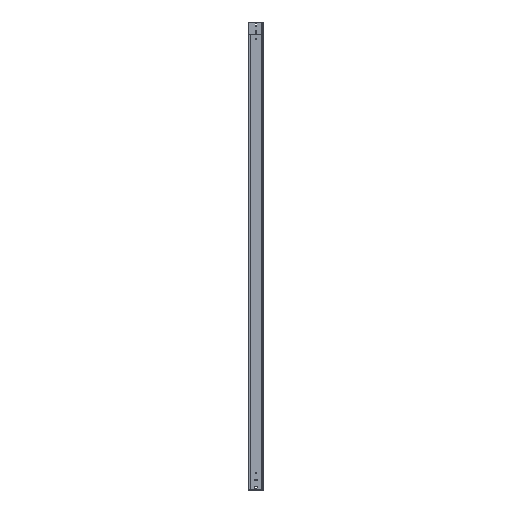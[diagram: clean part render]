
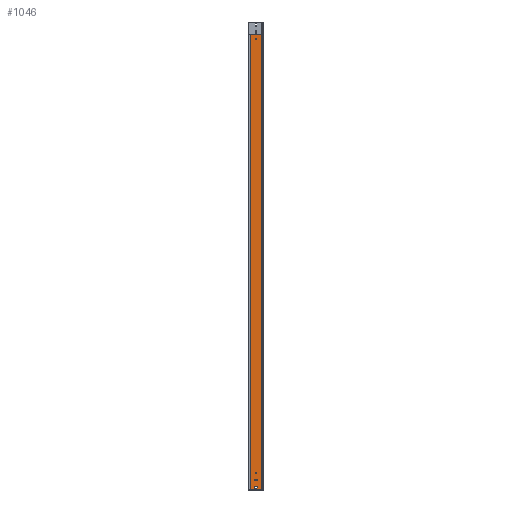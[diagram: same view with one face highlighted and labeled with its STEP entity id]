
A CAD part, left-side view. The second image highlights one B-rep face of the part: STEP entity #1046.
In plain terms, the highlighted planar face has unit normal (-1, 0, 0).
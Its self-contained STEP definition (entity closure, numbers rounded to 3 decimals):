
#2 = ORIENTED_EDGE ( 'NONE', *, *, #2774, .F. ) ;
#16 = CARTESIAN_POINT ( 'NONE',  ( 0., 85.166, 0. ) ) ;
#83 = VERTEX_POINT ( 'NONE', #2942 ) ;
#120 = CARTESIAN_POINT ( 'NONE',  ( 0., 54., 2903. ) ) ;
#187 = EDGE_CURVE ( 'NONE', #3581, #6876, #5778, .T. ) ;
#195 = DIRECTION ( 'NONE',  ( -1., 0., 0. ) ) ;
#241 = CARTESIAN_POINT ( 'NONE',  ( 0., 48.5, 2810. ) ) ;
#323 = AXIS2_PLACEMENT_3D ( 'NONE', #120, #5752, #6341 ) ;
#383 = EDGE_CURVE ( 'NONE', #2929, #6722, #2093, .T. ) ;
#393 = DIRECTION ( 'NONE',  ( -1., 0., 0. ) ) ;
#457 = CARTESIAN_POINT ( 'NONE',  ( 0., 48.5, 2814.5 ) ) ;
#459 = CARTESIAN_POINT ( 'NONE',  ( 0., 42.832, 0. ) ) ;
#533 = CARTESIAN_POINT ( 'NONE',  ( 0., 54., 2857. ) ) ;
#604 = ORIENTED_EDGE ( 'NONE', *, *, #383, .T. ) ;
#606 = CARTESIAN_POINT ( 'NONE',  ( 0., 64., 0. ) ) ;
#680 = VECTOR ( 'NONE', #3338, 1000. ) ;
#802 = ORIENTED_EDGE ( 'NONE', *, *, #187, .F. ) ;
#973 = FACE_BOUND ( 'NONE', #1213, .T. ) ;
#991 = CIRCLE ( 'NONE', #6242, 4.5 ) ;
#1010 = FACE_OUTER_BOUND ( 'NONE', #6982, .T. ) ;
#1016 = CARTESIAN_POINT ( 'NONE',  ( 0., 7.555, 0. ) ) ;
#1046 = ADVANCED_FACE ( 'NONE', ( #4519, #4485, #1527, #973, #1010 ), #3294, .T. ) ;
#1067 = DIRECTION ( 'NONE',  ( -1., 0., 0. ) ) ;
#1080 = DIRECTION ( 'NONE',  ( -1., 0., 0. ) ) ;
#1213 = EDGE_LOOP ( 'NONE', ( #2, #2504, #6375, #3590 ) ) ;
#1279 = CARTESIAN_POINT ( 'NONE',  ( 0., 0.5, 2920. ) ) ;
#1289 = DIRECTION ( 'NONE',  ( -1., 0., 0. ) ) ;
#1387 = CARTESIAN_POINT ( 'NONE',  ( 0., 43., 2898.5 ) ) ;
#1403 = DIRECTION ( 'NONE',  ( 0., 1., 0. ) ) ;
#1463 = AXIS2_PLACEMENT_3D ( 'NONE', #2329, #1289, #3571 ) ;
#1527 = FACE_BOUND ( 'NONE', #6684, .T. ) ;
#1530 = DIRECTION ( 'NONE',  ( 0., 0., 1. ) ) ;
#1571 = CARTESIAN_POINT ( 'NONE',  ( 0., 0., 2920. ) ) ;
#1579 = CARTESIAN_POINT ( 'NONE',  ( 0., 54., 2852.5 ) ) ;
#1610 = DIRECTION ( 'NONE',  ( 0., 0., -1. ) ) ;
#1667 = CARTESIAN_POINT ( 'NONE',  ( 0., 54., 2907.5 ) ) ;
#1748 = EDGE_CURVE ( 'NONE', #2508, #2434, #2247, .T. ) ;
#1753 = CARTESIAN_POINT ( 'NONE',  ( 0., 48.5, 30. ) ) ;
#1838 = LINE ( 'NONE', #1279, #6977 ) ;
#1933 = EDGE_CURVE ( 'NONE', #3411, #6559, #4511, .T. ) ;
#2028 = VECTOR ( 'NONE', #1403, 1000. ) ;
#2051 = DIRECTION ( 'NONE',  ( 0., 1., 0. ) ) ;
#2052 = CARTESIAN_POINT ( 'NONE',  ( 0., 48.5, 30. ) ) ;
#2093 = LINE ( 'NONE', #3151, #3975 ) ;
#2215 = CARTESIAN_POINT ( 'NONE',  ( 0., 48.5, 2805.5 ) ) ;
#2247 = LINE ( 'NONE', #2768, #4668 ) ;
#2329 = CARTESIAN_POINT ( 'NONE',  ( 0., 43., 2857. ) ) ;
#2368 = EDGE_CURVE ( 'NONE', #6108, #5639, #4242, .T. ) ;
#2403 = CIRCLE ( 'NONE', #5751, 4.5 ) ;
#2426 = B_SPLINE_CURVE_WITH_KNOTS ( 'NONE', 3,
 ( #5573, #1016, #3299, #459, #606, #6313, #16 ),
 .UNSPECIFIED., .F., .F.,
 ( 4, 1, 1, 1, 4 ),
 ( 0., 0.25, 0.5, 0.75, 1. ),
 .UNSPECIFIED. ) ;
#2434 = VERTEX_POINT ( 'NONE', #1387 ) ;
#2458 = VECTOR ( 'NONE', #2051, 1000. ) ;
#2494 = EDGE_CURVE ( 'NONE', #6876, #4927, #7096, .T. ) ;
#2504 = ORIENTED_EDGE ( 'NONE', *, *, #1933, .F. ) ;
#2505 = DIRECTION ( 'NONE',  ( -1., 0., 0. ) ) ;
#2508 = VERTEX_POINT ( 'NONE', #5979 ) ;
#2712 = ORIENTED_EDGE ( 'NONE', *, *, #4035, .F. ) ;
#2768 = CARTESIAN_POINT ( 'NONE',  ( 0., 54., 2898.5 ) ) ;
#2774 = EDGE_CURVE ( 'NONE', #6559, #2508, #6635, .T. ) ;
#2827 = EDGE_LOOP ( 'NONE', ( #2712, #6953 ) ) ;
#2877 = ORIENTED_EDGE ( 'NONE', *, *, #7029, .F. ) ;
#2929 = VERTEX_POINT ( 'NONE', #5363 ) ;
#2931 = AXIS2_PLACEMENT_3D ( 'NONE', #5771, #4047, #6318 ) ;
#2942 = CARTESIAN_POINT ( 'NONE',  ( 0., 0.5, 0. ) ) ;
#3151 = CARTESIAN_POINT ( 'NONE',  ( 0., 85.166, 2920. ) ) ;
#3256 = CARTESIAN_POINT ( 'NONE',  ( 0., 0., 2920. ) ) ;
#3294 = PLANE ( 'NONE',  #7156 ) ;
#3299 = CARTESIAN_POINT ( 'NONE',  ( 0., 21.666, 0. ) ) ;
#3338 = DIRECTION ( 'NONE',  ( 0., -1., 0. ) ) ;
#3411 = VERTEX_POINT ( 'NONE', #3575 ) ;
#3453 = CARTESIAN_POINT ( 'NONE',  ( 0., 54., 2861.5 ) ) ;
#3497 = VERTEX_POINT ( 'NONE', #6028 ) ;
#3569 = ORIENTED_EDGE ( 'NONE', *, *, #7102, .T. ) ;
#3571 = DIRECTION ( 'NONE',  ( 0., 0., 1. ) ) ;
#3575 = CARTESIAN_POINT ( 'NONE',  ( 0., 43., 2907.5 ) ) ;
#3581 = VERTEX_POINT ( 'NONE', #5774 ) ;
#3590 = ORIENTED_EDGE ( 'NONE', *, *, #1748, .F. ) ;
#3626 = CIRCLE ( 'NONE', #3980, 4.5 ) ;
#3774 = CARTESIAN_POINT ( 'NONE',  ( 0., 48.5, 25.5 ) ) ;
#3778 = VERTEX_POINT ( 'NONE', #6530 ) ;
#3783 = VERTEX_POINT ( 'NONE', #3774 ) ;
#3839 = CARTESIAN_POINT ( 'NONE',  ( 0., 43., 2903. ) ) ;
#3873 = ORIENTED_EDGE ( 'NONE', *, *, #2368, .F. ) ;
#3892 = DIRECTION ( 'NONE',  ( -1., 0., 0. ) ) ;
#3975 = VECTOR ( 'NONE', #4795, 1000. ) ;
#3980 = AXIS2_PLACEMENT_3D ( 'NONE', #3839, #1067, #5590 ) ;
#4003 = CIRCLE ( 'NONE', #6263, 4.5 ) ;
#4035 = EDGE_CURVE ( 'NONE', #3783, #5926, #991, .T. ) ;
#4047 = DIRECTION ( 'NONE',  ( -1., 0., 0. ) ) ;
#4093 = ORIENTED_EDGE ( 'NONE', *, *, #7076, .F. ) ;
#4242 = CIRCLE ( 'NONE', #2931, 4.5 ) ;
#4298 = EDGE_CURVE ( 'NONE', #2434, #3411, #3626, .T. ) ;
#4406 = ORIENTED_EDGE ( 'NONE', *, *, #2494, .F. ) ;
#4432 = CIRCLE ( 'NONE', #7046, 4.5 ) ;
#4485 = FACE_BOUND ( 'NONE', #5769, .T. ) ;
#4511 = LINE ( 'NONE', #1667, #2028 ) ;
#4519 = FACE_BOUND ( 'NONE', #2827, .T. ) ;
#4668 = VECTOR ( 'NONE', #4987, 1000. ) ;
#4795 = DIRECTION ( 'NONE',  ( 0., 0., -1. ) ) ;
#4895 = CARTESIAN_POINT ( 'NONE',  ( 0., 54., 2861.5 ) ) ;
#4927 = VERTEX_POINT ( 'NONE', #3453 ) ;
#4938 = LINE ( 'NONE', #1571, #6573 ) ;
#4944 = ORIENTED_EDGE ( 'NONE', *, *, #5537, .F. ) ;
#4987 = DIRECTION ( 'NONE',  ( 0., -1., 0. ) ) ;
#5044 = DIRECTION ( 'NONE',  ( 0., 0., 1. ) ) ;
#5130 = CARTESIAN_POINT ( 'NONE',  ( 0., 85.166, 0. ) ) ;
#5357 = CARTESIAN_POINT ( 'NONE',  ( 0., 54., 2907.5 ) ) ;
#5363 = CARTESIAN_POINT ( 'NONE',  ( 0., 85.166, 2920. ) ) ;
#5443 = CARTESIAN_POINT ( 'NONE',  ( 0., 48.5, 34.5 ) ) ;
#5505 = LINE ( 'NONE', #1579, #680 ) ;
#5537 = EDGE_CURVE ( 'NONE', #3497, #83, #1838, .T. ) ;
#5571 = DIRECTION ( 'NONE',  ( 0., 0., -1. ) ) ;
#5573 = CARTESIAN_POINT ( 'NONE',  ( 0., 0.5, 0. ) ) ;
#5590 = DIRECTION ( 'NONE',  ( 0., 0., 1. ) ) ;
#5639 = VERTEX_POINT ( 'NONE', #457 ) ;
#5697 = EDGE_CURVE ( 'NONE', #5926, #3783, #4003, .T. ) ;
#5751 = AXIS2_PLACEMENT_3D ( 'NONE', #533, #3892, #1610 ) ;
#5752 = DIRECTION ( 'NONE',  ( -1., 0., 0. ) ) ;
#5769 = EDGE_LOOP ( 'NONE', ( #2877, #3873 ) ) ;
#5771 = CARTESIAN_POINT ( 'NONE',  ( 0., 48.5, 2810. ) ) ;
#5774 = CARTESIAN_POINT ( 'NONE',  ( 0., 43., 2852.5 ) ) ;
#5778 = CIRCLE ( 'NONE', #1463, 4.5 ) ;
#5863 = DIRECTION ( 'NONE',  ( 0., 0., 1. ) ) ;
#5926 = VERTEX_POINT ( 'NONE', #5443 ) ;
#5979 = CARTESIAN_POINT ( 'NONE',  ( 0., 54., 2898.5 ) ) ;
#6025 = ORIENTED_EDGE ( 'NONE', *, *, #6626, .F. ) ;
#6028 = CARTESIAN_POINT ( 'NONE',  ( 0., 0.5, 2920. ) ) ;
#6108 = VERTEX_POINT ( 'NONE', #2215 ) ;
#6196 = DIRECTION ( 'NONE',  ( 0., 1., 0. ) ) ;
#6242 = AXIS2_PLACEMENT_3D ( 'NONE', #1753, #195, #5863 ) ;
#6263 = AXIS2_PLACEMENT_3D ( 'NONE', #2052, #393, #1530 ) ;
#6313 = CARTESIAN_POINT ( 'NONE',  ( 0., 78.111, 0. ) ) ;
#6318 = DIRECTION ( 'NONE',  ( 0., 0., 1. ) ) ;
#6341 = DIRECTION ( 'NONE',  ( 0., 0., -1. ) ) ;
#6375 = ORIENTED_EDGE ( 'NONE', *, *, #4298, .F. ) ;
#6530 = CARTESIAN_POINT ( 'NONE',  ( 0., 54., 2852.5 ) ) ;
#6559 = VERTEX_POINT ( 'NONE', #5357 ) ;
#6573 = VECTOR ( 'NONE', #6196, 1000. ) ;
#6626 = EDGE_CURVE ( 'NONE', #3778, #3581, #5505, .T. ) ;
#6635 = CIRCLE ( 'NONE', #323, 4.5 ) ;
#6684 = EDGE_LOOP ( 'NONE', ( #4093, #4406, #802, #6025 ) ) ;
#6722 = VERTEX_POINT ( 'NONE', #5130 ) ;
#6876 = VERTEX_POINT ( 'NONE', #6916 ) ;
#6916 = CARTESIAN_POINT ( 'NONE',  ( 0., 43., 2861.5 ) ) ;
#6953 = ORIENTED_EDGE ( 'NONE', *, *, #5697, .F. ) ;
#6963 = ORIENTED_EDGE ( 'NONE', *, *, #7210, .F. ) ;
#6977 = VECTOR ( 'NONE', #5571, 1000. ) ;
#6982 = EDGE_LOOP ( 'NONE', ( #6963, #4944, #3569, #604 ) ) ;
#7029 = EDGE_CURVE ( 'NONE', #5639, #6108, #4432, .T. ) ;
#7046 = AXIS2_PLACEMENT_3D ( 'NONE', #241, #2505, #7057 ) ;
#7057 = DIRECTION ( 'NONE',  ( 0., 0., 1. ) ) ;
#7076 = EDGE_CURVE ( 'NONE', #4927, #3778, #2403, .T. ) ;
#7096 = LINE ( 'NONE', #4895, #2458 ) ;
#7102 = EDGE_CURVE ( 'NONE', #3497, #2929, #4938, .T. ) ;
#7156 = AXIS2_PLACEMENT_3D ( 'NONE', #3256, #1080, #5044 ) ;
#7210 = EDGE_CURVE ( 'NONE', #83, #6722, #2426, .T. ) ;
